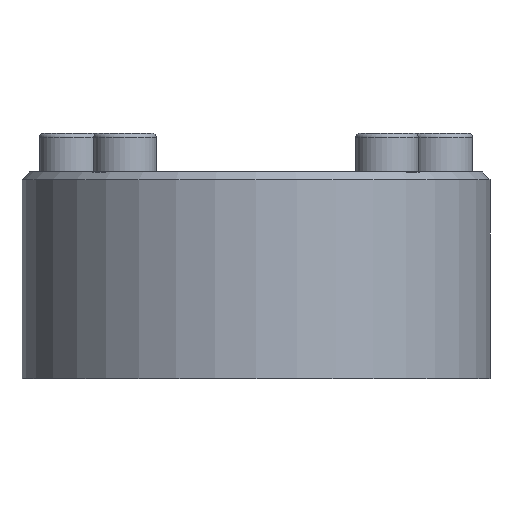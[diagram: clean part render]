
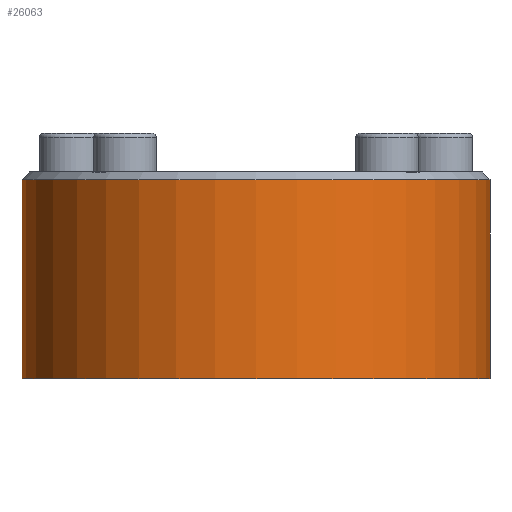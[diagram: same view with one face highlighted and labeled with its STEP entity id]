
A CAD part, front view. The second image highlights one B-rep face of the part: STEP entity #26063.
In plain terms, the highlighted cylindrical face has radius 60 mm (diameter 120 mm), a partial arc.
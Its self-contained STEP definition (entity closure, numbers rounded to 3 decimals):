
#2460=FACE_OUTER_BOUND('',#3848,.T.);
#3848=EDGE_LOOP('',(#17188,#17189,#17190,#17191));
#5390=CIRCLE('',#27454,60.);
#5391=CIRCLE('',#27455,60.);
#5444=LINE('',#33226,#8199);
#5445=LINE('',#33230,#8200);
#8199=VECTOR('',#28461,51.);
#8200=VECTOR('',#28464,51.);
#10954=VERTEX_POINT('',#33224);
#10955=VERTEX_POINT('',#33225);
#10956=VERTEX_POINT('',#33227);
#10957=VERTEX_POINT('',#33229);
#13455=EDGE_CURVE('',#10954,#10955,#5444,.T.);
#13456=EDGE_CURVE('',#10956,#10954,#5390,.T.);
#13457=EDGE_CURVE('',#10957,#10956,#5445,.T.);
#13458=EDGE_CURVE('',#10955,#10957,#5391,.T.);
#17188=ORIENTED_EDGE('',*,*,#13455,.F.);
#17189=ORIENTED_EDGE('',*,*,#13456,.F.);
#17190=ORIENTED_EDGE('',*,*,#13457,.F.);
#17191=ORIENTED_EDGE('',*,*,#13458,.F.);
#24654=CYLINDRICAL_SURFACE('',#27453,60.);
#26063=ADVANCED_FACE('',(#2460),#24654,.T.);
#27453=AXIS2_PLACEMENT_3D('',#33223,#28459,#28460);
#27454=AXIS2_PLACEMENT_3D('',#33228,#28462,#28463);
#27455=AXIS2_PLACEMENT_3D('',#33231,#28465,#28466);
#28459=DIRECTION('center_axis',(0.,0.,
1.));
#28460=DIRECTION('ref_axis',(1.,0.,0.));
#28461=DIRECTION('',(0.,0.,1.));
#28462=DIRECTION('center_axis',(0.,0.,
-1.));
#28463=DIRECTION('ref_axis',(1.,0.,0.));
#28464=DIRECTION('',(0.,0.,-1.));
#28465=DIRECTION('center_axis',(0.,0.,
1.));
#28466=DIRECTION('ref_axis',(-1.,0.,0.));
#33223=CARTESIAN_POINT('Origin',(0.,-75.,
-43.25));
#33224=CARTESIAN_POINT('',(-60.,-75.,-43.25));
#33225=CARTESIAN_POINT('',(-60.,-75.,7.75));
#33226=CARTESIAN_POINT('',(-60.,-75.,-43.25));
#33227=CARTESIAN_POINT('',(60.,-75.,-43.25));
#33228=CARTESIAN_POINT('Origin',(0.,-75.,
-43.25));
#33229=CARTESIAN_POINT('',(60.,-75.,7.75));
#33230=CARTESIAN_POINT('',(60.,-75.,9.75));
#33231=CARTESIAN_POINT('Origin',(0.,-75.,
7.75));
